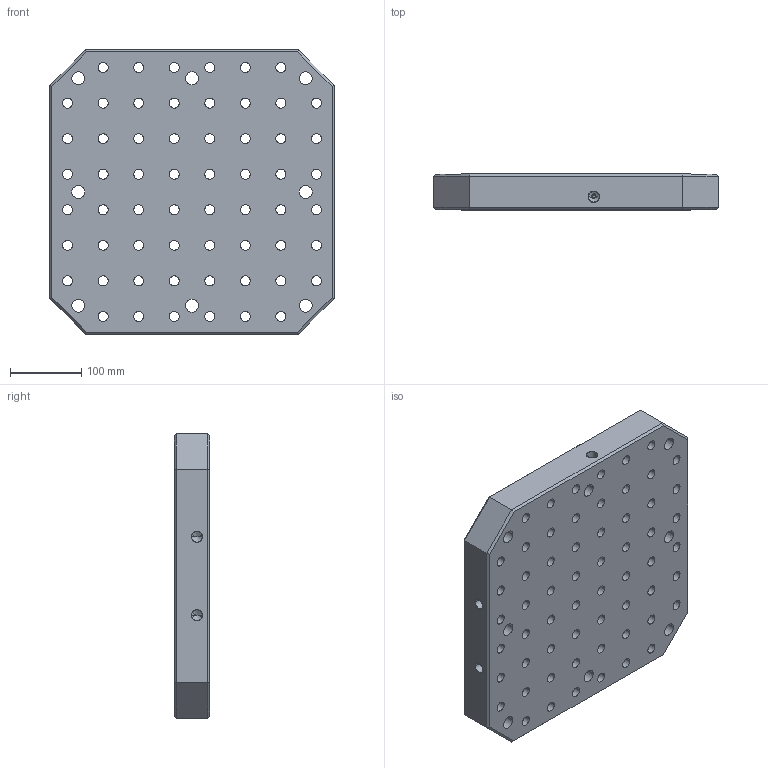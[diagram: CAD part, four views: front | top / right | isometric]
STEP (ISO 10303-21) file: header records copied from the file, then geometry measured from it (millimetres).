
FILE_DESCRIPTION((''),'2;1');
FILE_NAME('FG_WH_BASPL_SQG16NP001','2026-05-18T15:44:09',('Admin'),(''),'CREO PARAMETRIC BY PTC INC, 2025010','CREO PARAMETRIC BY PTC INC, 2025010','');
FILE_SCHEMA(('CONFIG_CONTROL_DESIGN'));
Length unit declared in the file: millimetre
Products named in the file (1): FG_WH_BASPL_SQG16NP001
Bounding box: 400 x 50 x 400 mm (x, y, z)
Volume: 7074067.1 mm3; surface area: 631440.1 mm2
Topology: 1 solids, 64 shells, 567 faces, 1413 edges, 976 vertices
Faces by surface type: cylinder 404, plane 157, cone 6
Entity records: 17756 total; most frequent: DIRECTION 3474, CARTESIAN_POINT 3036, ORIENTED_EDGE 2560, AXIS2_PLACEMENT_3D 1504, EDGE_CURVE 1409, VERTEX_POINT 976, CIRCLE 936, EDGE_LOOP 837
